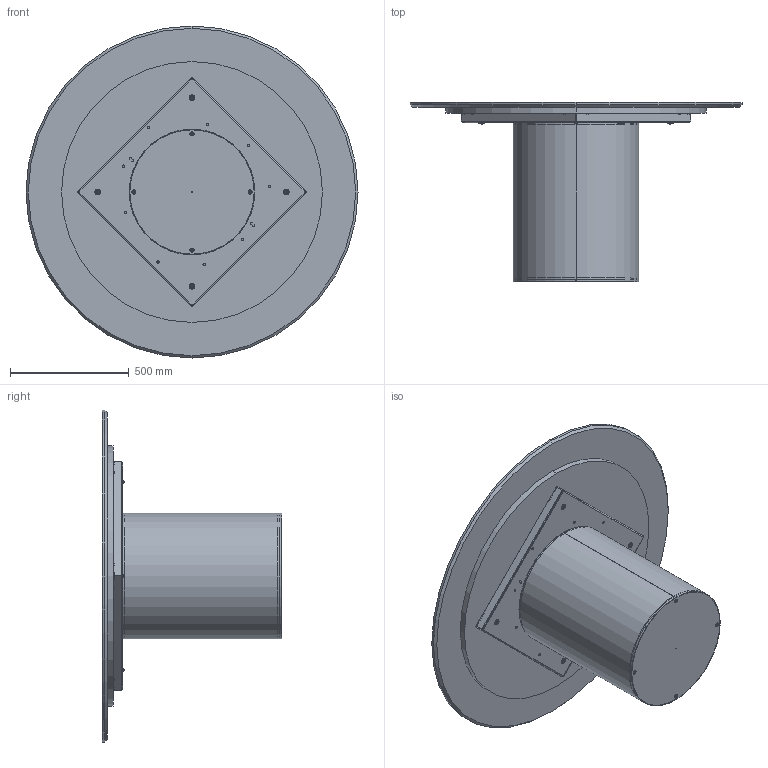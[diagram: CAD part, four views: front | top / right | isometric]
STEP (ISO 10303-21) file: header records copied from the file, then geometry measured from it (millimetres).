
FILE_DESCRIPTION (( 'STEP AP203' ), '1' );
FILE_NAME ('CI06M.STEP', '2024-08-08T07:01:10', ( '' ), ( '' ), 'SwSTEP 2.0', 'SolidWorks 2022', '' );
FILE_SCHEMA (( 'CONFIG_CONTROL_DESIGN' ));
Length unit declared in the file: millimetre
Products named in the file (14): COLLO TELAIO UNIVERSALE TTAV0801 CON FERRAMENTA_MTG TOP LEGNO-MARMO-KING; CI06M; M8xXXmm_M8x55mm; C2B000000_02-01-ZAVORRA IN FERRO D.530mm; C2B000000-03-CILINDRO BASE D.530mm_Normale; TTAV0801-02-TELAIO UNIVERSALE TONDO; C2B000000_01-00-struttura cilindro D.530mm; TTAV0801-02-TELAIO UNIVERSALE TONDO-VASSOIO; TRU0000X-00-SOTTO PIANO D.XXXXmm_TRU00002 D.110cm ; M0X-00- D. piani marmo_D.1400; M8xXXmm_hex_M8X20mm; rondella M8_8X24; TTAV0801 TELAIO UNIVERSALE TONDO-PIASTRINA; M0XMXX-00-Piani Rotondi in marmo 2024_1400
Assembly tree (25 placements, depth 4):
  CI06M
    C2B000000-03-CILINDRO BASE D.530mm_Normale
      C2B000000_01-00-struttura cilindro D.530mm
      C2B000000_02-01-ZAVORRA IN FERRO D.530mm
      M8xXXmm_hex_M8X20mm  x4
    COLLO TELAIO UNIVERSALE TTAV0801 CON FERRAMENTA_MTG TOP LEGNO-MARMO-KING
      TTAV0801-02-TELAIO UNIVERSALE TONDO
        TTAV0801-02-TELAIO UNIVERSALE TONDO-VASSOIO
        TTAV0801 TELAIO UNIVERSALE TONDO-PIASTRINA  x4
      rondella M8_8X24  x4
      M8xXXmm_M8x55mm  x4
    M0XMXX-00-Piani Rotondi in marmo 2024_1400
      M0X-00- D. piani marmo_D.1400
      TRU0000X-00-SOTTO PIANO D.XXXXmm_TRU00002 D.110cm 
Bounding box: 1400 x 755 x 1400 mm (x, y, z)
Volume: 61627973.2 mm3; surface area: 9273361.3 mm2
Topology: 24 solids, 24 shells, 874 faces, 2166 edges, 1323 vertices
Faces by surface type: plane 382, cylinder 332, cone 90, torus 56, sphere 14
Entity records: 17644 total; most frequent: DIRECTION 2906, CARTESIAN_POINT 2744, ORIENTED_EDGE 2614, EDGE_CURVE 1307, AXIS2_PLACEMENT_3D 1072, VERTEX_POINT 824, LINE 762, VECTOR 762
